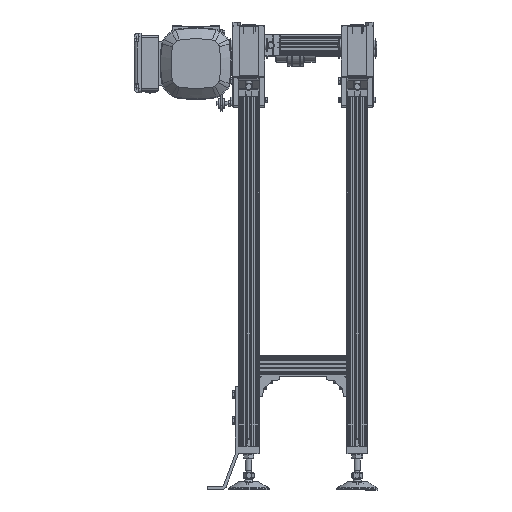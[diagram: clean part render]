
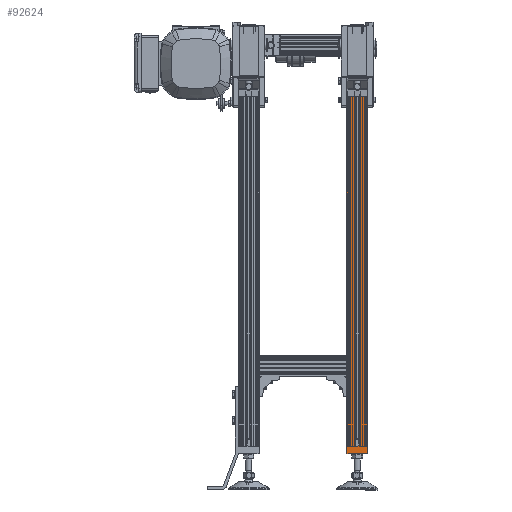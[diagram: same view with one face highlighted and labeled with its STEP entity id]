
A CAD part, left-side view. The second image highlights one B-rep face of the part: STEP entity #92624.
In plain terms, the highlighted planar face has unit normal (-1, 0, 0).
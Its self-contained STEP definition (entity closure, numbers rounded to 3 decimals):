
#5259=LINE('',#142308,#13807);
#5379=LINE('',#142888,#13927);
#5380=LINE('',#142889,#13928);
#5383=LINE('',#142912,#13931);
#5384=LINE('',#142913,#13932);
#5385=LINE('',#142915,#13933);
#5386=LINE('',#142917,#13934);
#5387=LINE('',#142919,#13935);
#5388=LINE('',#142920,#13936);
#5389=LINE('',#142922,#13937);
#5390=LINE('',#142924,#13938);
#5391=LINE('',#142925,#13939);
#13807=VECTOR('',#114810,15.);
#13927=VECTOR('',#115162,13.45);
#13928=VECTOR('',#115163,13.45);
#13931=VECTOR('',#115192,675.);
#13932=VECTOR('',#115193,1.);
#13933=VECTOR('',#115194,40.);
#13934=VECTOR('',#115195,15.);
#13935=VECTOR('',#115196,1.);
#13936=VECTOR('',#115197,675.);
#13937=VECTOR('',#115198,675.);
#13938=VECTOR('',#115199,11.1);
#13939=VECTOR('',#115200,675.);
#19657=PLANE('',#99178);
#25810=FACE_OUTER_BOUND('',#31277,.T.);
#31277=EDGE_LOOP('',(#70280,#70281,#70282,#70283,#70284,#70285,#70286,#70287,
#70288,#70289,#70290,#70291));
#42277=VERTEX_POINT('',#142305);
#42278=VERTEX_POINT('',#142307);
#42361=VERTEX_POINT('',#142652);
#42364=VERTEX_POINT('',#142657);
#42366=VERTEX_POINT('',#142663);
#42370=VERTEX_POINT('',#142672);
#42413=VERTEX_POINT('',#142911);
#42414=VERTEX_POINT('',#142914);
#42415=VERTEX_POINT('',#142916);
#42416=VERTEX_POINT('',#142918);
#42417=VERTEX_POINT('',#142921);
#42418=VERTEX_POINT('',#142923);
#52534=EDGE_CURVE('',#42278,#42277,#5259,.T.);
#52717=EDGE_CURVE('',#42361,#42366,#5379,.T.);
#52718=EDGE_CURVE('',#42370,#42364,#5380,.T.);
#52727=EDGE_CURVE('',#42413,#42366,#5383,.T.);
#52728=EDGE_CURVE('',#42413,#42278,#5384,.T.);
#52729=EDGE_CURVE('',#42277,#42414,#5385,.T.);
#52730=EDGE_CURVE('',#42415,#42414,#5386,.T.);
#52731=EDGE_CURVE('',#42415,#42416,#5387,.T.);
#52732=EDGE_CURVE('',#42416,#42370,#5388,.T.);
#52733=EDGE_CURVE('',#42417,#42364,#5389,.T.);
#52734=EDGE_CURVE('',#42417,#42418,#5390,.T.);
#52735=EDGE_CURVE('',#42418,#42361,#5391,.T.);
#70280=ORIENTED_EDGE('',*,*,#52717,.T.);
#70281=ORIENTED_EDGE('',*,*,#52727,.F.);
#70282=ORIENTED_EDGE('',*,*,#52728,.T.);
#70283=ORIENTED_EDGE('',*,*,#52534,.T.);
#70284=ORIENTED_EDGE('',*,*,#52729,.T.);
#70285=ORIENTED_EDGE('',*,*,#52730,.F.);
#70286=ORIENTED_EDGE('',*,*,#52731,.T.);
#70287=ORIENTED_EDGE('',*,*,#52732,.T.);
#70288=ORIENTED_EDGE('',*,*,#52718,.T.);
#70289=ORIENTED_EDGE('',*,*,#52733,.F.);
#70290=ORIENTED_EDGE('',*,*,#52734,.T.);
#70291=ORIENTED_EDGE('',*,*,#52735,.T.);
#92624=ADVANCED_FACE('',(#25810),#19657,.T.);
#99178=AXIS2_PLACEMENT_3D('',#142910,#115190,#115191);
#114810=DIRECTION('',(0.,0.,-1.));
#115162=DIRECTION('',(0.,1.,0.));
#115163=DIRECTION('',(0.,1.,0.));
#115190=DIRECTION('center_axis',(-1.,0.,0.));
#115191=DIRECTION('ref_axis',(0.,-1.,0.));
#115192=DIRECTION('',(0.,0.,1.));
#115193=DIRECTION('',(0.,1.,0.));
#115194=DIRECTION('',(0.,-1.,0.));
#115195=DIRECTION('',(0.,0.,-1.));
#115196=DIRECTION('',(0.,1.,0.));
#115197=DIRECTION('',(0.,0.,1.));
#115198=DIRECTION('',(0.,0.,1.));
#115199=DIRECTION('',(0.,1.,0.));
#115200=DIRECTION('',(0.,0.,1.));
#142305=CARTESIAN_POINT('',(223.,-85.,-728.55));
#142307=CARTESIAN_POINT('',(223.,-85.,-713.55));
#142308=CARTESIAN_POINT('',(223.,-85.,-713.55));
#142652=CARTESIAN_POINT('',(223.,-99.45,-38.55));
#142657=CARTESIAN_POINT('',(223.,-110.55,-38.55));
#142663=CARTESIAN_POINT('',(223.,-86.,-38.55));
#142672=CARTESIAN_POINT('',(223.,-124.,-38.55));
#142888=CARTESIAN_POINT('',(223.,-95.5,-38.55));
#142889=CARTESIAN_POINT('',(223.,-95.5,-38.55));
#142910=CARTESIAN_POINT('Origin',(223.,-86.,-713.55));
#142911=CARTESIAN_POINT('',(223.,-86.,-713.55));
#142912=CARTESIAN_POINT('',(223.,-86.,-713.55));
#142913=CARTESIAN_POINT('',(223.,-125.,-713.55));
#142914=CARTESIAN_POINT('',(223.,-125.,-728.55));
#142915=CARTESIAN_POINT('',(223.,-125.,-728.55));
#142916=CARTESIAN_POINT('',(223.,-125.,-713.55));
#142917=CARTESIAN_POINT('',(223.,-125.,-713.55));
#142918=CARTESIAN_POINT('',(223.,-124.,-713.55));
#142919=CARTESIAN_POINT('',(223.,-125.,-713.55));
#142920=CARTESIAN_POINT('',(223.,-124.,-713.55));
#142921=CARTESIAN_POINT('',(223.,-110.55,-713.55));
#142922=CARTESIAN_POINT('',(223.,-110.55,-713.55));
#142923=CARTESIAN_POINT('',(223.,-99.45,-713.55));
#142924=CARTESIAN_POINT('',(223.,-125.,-713.55));
#142925=CARTESIAN_POINT('',(223.,-99.45,-713.55));
